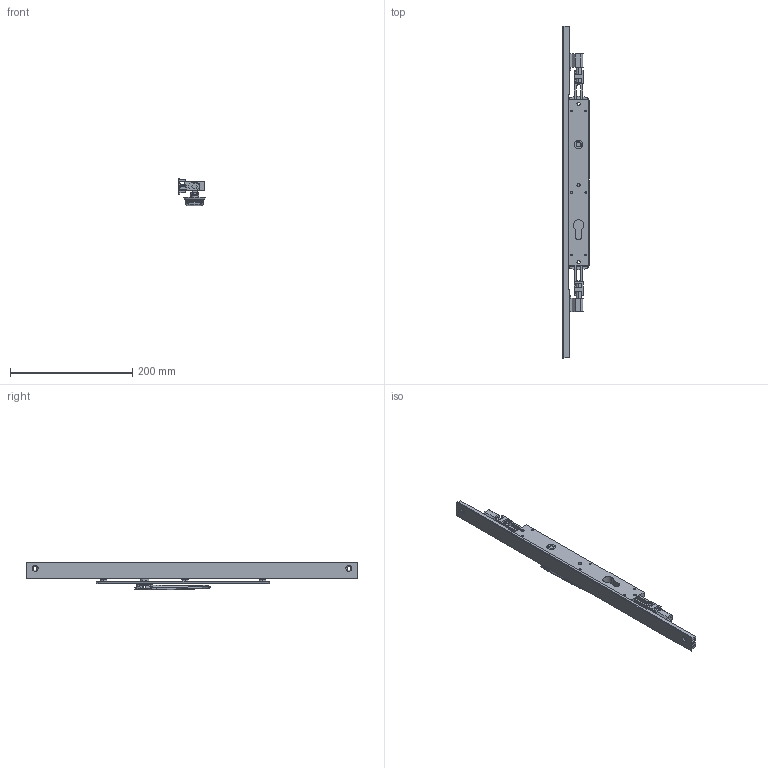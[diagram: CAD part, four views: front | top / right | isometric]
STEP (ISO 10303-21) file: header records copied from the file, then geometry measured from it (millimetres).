
FILE_DESCRIPTION (( 'STEP AP214' ), '1' );
FILE_NAME ('TPL-W-EU-609-L 06Nov2024.STEP', '2024-11-27T01:35:43', ( '' ), ( '' ), 'SwSTEP 2.0', 'SolidWorks 2023', '' );
FILE_SCHEMA (( 'AUTOMOTIVE_DESIGN' ));
Length unit declared in the file: millimetre
Products named in the file (18): Copy (2) of COV-112-B Cover B suit TPLGen2 standard range^TPL-W-EU-109 04Nov2024_2870mm; Copy of Adapter DnF - simplfied^TPL-W-EU-109 04Nov2024_26mm backset; TPL-W-EU-609-L 06Nov2024; Copy of LKC-584 Pivot body zinc - simplified^Copy of TPGen2 handle non-keyed long zinc - simplified_TPL-W-EU-109 04Nov2024; Copy of Adapter CnE - simplfied^TPL-W-EU-109 04Nov2024_26mm backset; Copy of TPLGen2 lock body keyed^Copy of TPLGen2 lock body keyed assembly_TPL-W-EU-109 04Nov2024; Copy of Copy of LKC-531 Lock twinpoint transmission rod wood system^TPL-W-EU-109 04Nov2024_Standard Range 2891.7mm; Copy of COV-112-A Cover A suit TPLGen2 standard range^TPL-W-EU-109 04Nov2024_2870mm; Copy of LKC-586 Spindle square 8mm with M4 hole^Copy of TPGen2 handle non-keyed long zinc - simplified_TPL-W-EU-109 04Nov2024_25mm; Copy of LKC-505 Swing handle zinc - simplified^Copy of TPGen2 handle non-keyed long zinc - simplified_TPL-W-EU-109 04Nov2024; Copy of COV-112-C Cover C TPLGen2 Lock body^TPL-W-EU-109 04Nov2024; Copy of LKC-585 Rotator body zinc^Copy of TPGen2 handle non-keyed long zinc - simplified_TPL-W-EU-109 04Nov2024; Copy of TPLGen2 push rod - simplified^Copy of TPLGen2 lock body keyed assembly_TPL-W-EU-109 04Nov2024_Female thread M10; Copy of LKC-583 Escutcheon plate unkeyed 285mm long zinc - simplified^Copy of TPGen2 handle non-keyed long zinc - simplified_TPL-W-EU-109 04Nov2024; Copy of TPLGen2 lock body keyed assembly^TPL-W-EU-109 04Nov2024_Bolts extended; Bolt.step; Copy of TPGen2 handle non-keyed long zinc - simplified^TPL-W-EU-109 04Nov2024_Vertical; Copy of Copy of Copy of LKC-531 Lock twinpoint transmission rod wood system^TPL-W-EU-109 04Nov2024_Standard Range 2891.7mm
Assembly tree (15 placements, depth 3):
  Copy (2) of COV-112-B Cover B suit TPLGen2 standard range^TPL-W-EU-109 04Nov2024_2870mm
  TPL-W-EU-609-L 06Nov2024
    Copy of TPLGen2 lock body keyed assembly^TPL-W-EU-109 04Nov2024_Bolts extended
      Copy of TPLGen2 lock body keyed^Copy of TPLGen2 lock body keyed assembly_TPL-W-EU-109 04Nov2024
      Copy of TPLGen2 push rod - simplified^Copy of TPLGen2 lock body keyed assembly_TPL-W-EU-109 04Nov2024_Female thread M10  x2
    Copy of TPGen2 handle non-keyed long zinc - simplified^TPL-W-EU-109 04Nov2024_Vertical
      Copy of LKC-583 Escutcheon plate unkeyed 285mm long zinc - simplified^Copy of TPGen2 handle non-keyed long zinc - simplified_TPL-W-EU-109 04Nov2024
      Copy of LKC-505 Swing handle zinc - simplified^Copy of TPGen2 handle non-keyed long zinc - simplified_TPL-W-EU-109 04Nov2024
      Copy of LKC-585 Rotator body zinc^Copy of TPGen2 handle non-keyed long zinc - simplified_TPL-W-EU-109 04Nov2024
      Copy of LKC-586 Spindle square 8mm with M4 hole^Copy of TPGen2 handle non-keyed long zinc - simplified_TPL-W-EU-109 04Nov2024_25mm
      Copy of LKC-584 Pivot body zinc - simplified^Copy of TPGen2 handle non-keyed long zinc - simplified_TPL-W-EU-109 04Nov2024
    Copy of COV-112-C Cover C TPLGen2 Lock body^TPL-W-EU-109 04Nov2024
    Copy of Copy of LKC-531 Lock twinpoint transmission rod wood system^TPL-W-EU-109 04Nov2024_Standard Range 2891.7mm
    Copy of Copy of Copy of LKC-531 Lock twinpoint transmission rod wood system^TPL-W-EU-109 04Nov2024_Standard Range 2891.7mm
    Copy of Adapter CnE - simplfied^TPL-W-EU-109 04Nov2024_26mm backset
    Copy of Adapter DnF - simplfied^TPL-W-EU-109 04Nov2024_26mm backset
  Copy of COV-112-A Cover A suit TPLGen2 standard range^TPL-W-EU-109 04Nov2024_2870mm
  Bolt.step
Bounding box: 43.5 x 544 x 45.86 mm (x, y, z)
Volume: 269442.8 mm3; surface area: 134922.3 mm2
Topology: 13 solids, 13 shells, 887 faces, 2187 edges, 1360 vertices
Faces by surface type: plane 310, bspline 241, cylinder 206, cone 70, torus 52, sphere 8
Entity records: 31804 total; most frequent: CARTESIAN_POINT 12765, ORIENTED_EDGE 4182, DIRECTION 3417, EDGE_CURVE 2091, VERTEX_POINT 1300, AXIS2_PLACEMENT_3D 1254, EDGE_LOOP 947, LINE 909
